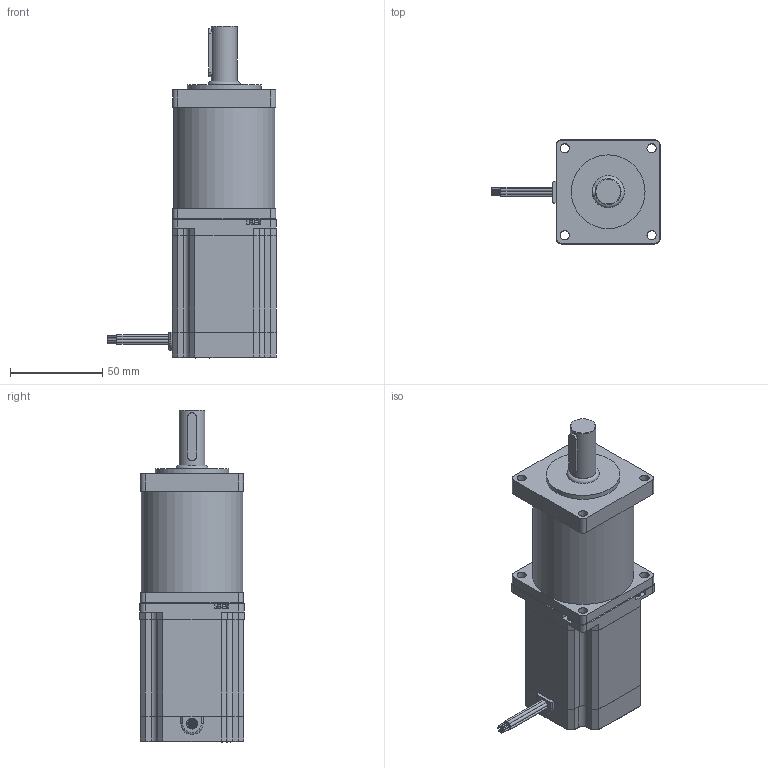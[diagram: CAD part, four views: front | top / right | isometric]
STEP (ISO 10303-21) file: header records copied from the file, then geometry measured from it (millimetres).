
FILE_DESCRIPTION(/* description */ (''),/* implementation_level */ '2;1');
FILE_NAME(/* name */ '\\JOINapp01\Profiles\martins\Desktop\MOTO REDUTORES MP\KTC-HT23-400-R16.step',/* time_stamp */ '2018-03-29T17:03:04-03:00',/* author */ ('martins'),/* organization */ (''),/* preprocessor_version */ 'ST-DEVELOPER v16.1',/* originating_system */ 'Autodesk Inventor 2016',/* authorisation */ '');
FILE_SCHEMA (('AUTOMOTIVE_DESIGN { 1 0 10303 214 3 1 1 }'));
Length unit declared in the file: millimetre
Products named in the file (1): KTC-HT23-400-R16
Bounding box: 91.4 x 56.5 x 180.1 mm (x, y, z)
Volume: 397560 mm3; surface area: 42224.2 mm2
Topology: 1 solids, 4 shells, 658 faces, 1689 edges, 1099 vertices
Faces by surface type: plane 399, bspline 113, cylinder 100, cone 24, torus 22
Full cylindrical faces by diameter (mm): 0.7 x8, 1.567 x1, 1.6 x8, 2.013 x7, 5 x16, 5.935 x1, 6.35 x1, 10.5 x1, 11 x1, 14 x1, 40 x1, 55 x1
Entity records: 20785 total; most frequent: CARTESIAN_POINT 5486, ORIENTED_EDGE 3222, DIRECTION 2689, EDGE_CURVE 1611, LINE 1105, VECTOR 1105, VERTEX_POINT 1085, EDGE_LOOP 800
